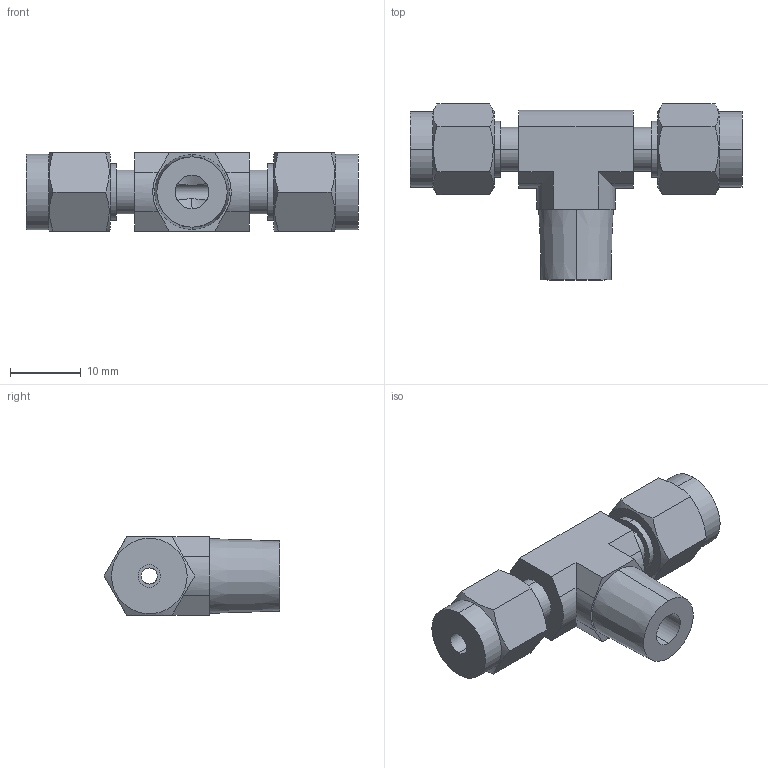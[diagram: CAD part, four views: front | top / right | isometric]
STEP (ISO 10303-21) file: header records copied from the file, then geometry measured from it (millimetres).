
FILE_DESCRIPTION (( 'STEP AP203' ), '1' );
FILE_NAME ('DTN 02-02 SS.STEP', '2009-09-08T10:09:10', ( 'Your User Name' ), ( 'Your Company Name' ), 'SwSTEP 2.0', 'SolidWorks 2008', '' );
FILE_SCHEMA (( 'CONFIG_CONTROL_DESIGN' ));
Length unit declared in the file: millimetre
Products named in the file (1): DTN 02-02 SS
Bounding box: 47 x 24.91 x 11.11 mm (x, y, z)
Volume: 4937 mm3; surface area: 3227.8 mm2
Topology: 1 solids, 1 shells, 75 faces, 182 edges, 117 vertices
Faces by surface type: plane 36, cylinder 26, cone 13
Entity records: 2492 total; most frequent: CARTESIAN_POINT 674, ORIENTED_EDGE 364, DIRECTION 351, EDGE_CURVE 182, AXIS2_PLACEMENT_3D 132, VERTEX_POINT 117, EDGE_LOOP 87, VECTOR 87
